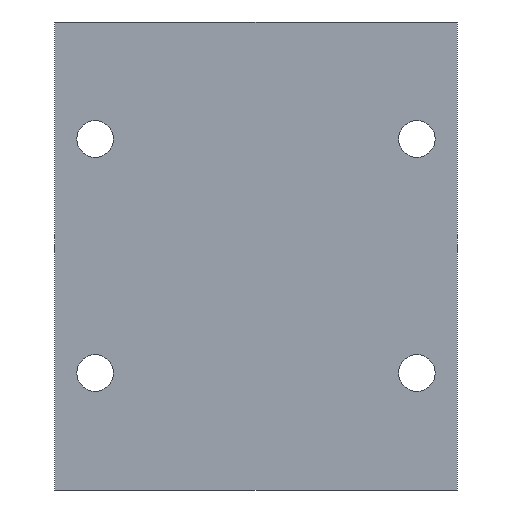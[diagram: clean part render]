
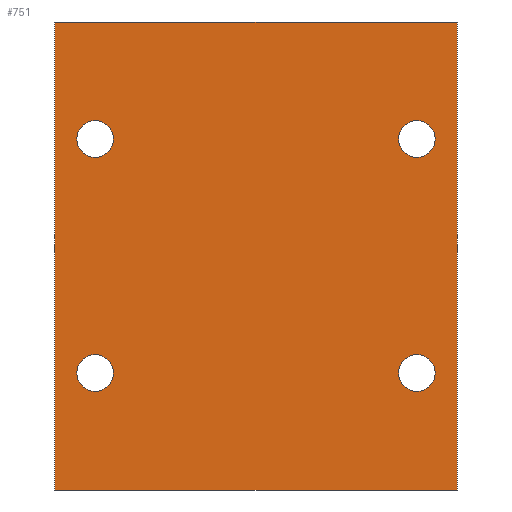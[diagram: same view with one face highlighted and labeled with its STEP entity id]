
A CAD part, left-side view. The second image highlights one B-rep face of the part: STEP entity #751.
In plain terms, the highlighted planar face has unit normal (-1, 0, 0).
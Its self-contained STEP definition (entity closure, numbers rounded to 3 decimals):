
#7 = ORIENTED_EDGE ( 'NONE', *, *, #178, .T. ) ;
#21 = CARTESIAN_POINT ( 'NONE',  ( 0., 5.5, 45.5 ) ) ;
#29 = LINE ( 'NONE', #2273, #1985 ) ;
#63 = EDGE_CURVE ( 'NONE', #290, #513, #1407, .T. ) ;
#78 = VERTEX_POINT ( 'NONE', #1261 ) ;
#126 = DIRECTION ( 'NONE',  ( 0., -1., 0. ) ) ;
#163 = CIRCLE ( 'NONE', #1084, 2.5 ) ;
#178 = EDGE_CURVE ( 'NONE', #1125, #1614, #2141, .T. ) ;
#226 = VERTEX_POINT ( 'NONE', #713 ) ;
#229 = EDGE_CURVE ( 'NONE', #78, #226, #476, .T. ) ;
#230 = CARTESIAN_POINT ( 'NONE',  ( 0., 5.5, 48. ) ) ;
#268 = CARTESIAN_POINT ( 'NONE',  ( 0., 49.5, 16. ) ) ;
#271 = DIRECTION ( 'NONE',  ( 1., 0., 0. ) ) ;
#272 = CARTESIAN_POINT ( 'NONE',  ( 0., 5.5, 48. ) ) ;
#274 = AXIS2_PLACEMENT_3D ( 'NONE', #1410, #271, #1604 ) ;
#281 = EDGE_LOOP ( 'NONE', ( #2283, #2324, #650, #782 ) ) ;
#290 = VERTEX_POINT ( 'NONE', #1500 ) ;
#291 = DIRECTION ( 'NONE',  ( 0., 0., -1. ) ) ;
#305 = DIRECTION ( 'NONE',  ( 1., 0., 0. ) ) ;
#322 = CIRCLE ( 'NONE', #1916, 2.5 ) ;
#340 = CARTESIAN_POINT ( 'NONE',  ( 0., 5.5, 18.5 ) ) ;
#377 = DIRECTION ( 'NONE',  ( 0., 0., -1. ) ) ;
#381 = CARTESIAN_POINT ( 'NONE',  ( 0., 49.5, 45.5 ) ) ;
#476 = LINE ( 'NONE', #1483, #1432 ) ;
#483 = DIRECTION ( 'NONE',  ( 1., 0., 0. ) ) ;
#486 = FACE_BOUND ( 'NONE', #1707, .T. ) ;
#494 = ORIENTED_EDGE ( 'NONE', *, *, #824, .T. ) ;
#513 = VERTEX_POINT ( 'NONE', #1748 ) ;
#516 = EDGE_CURVE ( 'NONE', #865, #656, #322, .T. ) ;
#527 = CARTESIAN_POINT ( 'NONE',  ( 0., 49.5, 48. ) ) ;
#529 = AXIS2_PLACEMENT_3D ( 'NONE', #272, #578, #2308 ) ;
#538 = ORIENTED_EDGE ( 'NONE', *, *, #1850, .T. ) ;
#578 = DIRECTION ( 'NONE',  ( 1., 0., 0. ) ) ;
#614 = CARTESIAN_POINT ( 'NONE',  ( 0., 5.5, 50.5 ) ) ;
#650 = ORIENTED_EDGE ( 'NONE', *, *, #63, .F. ) ;
#653 = DIRECTION ( 'NONE',  ( 1., 0., 0. ) ) ;
#656 = VERTEX_POINT ( 'NONE', #1072 ) ;
#663 = EDGE_CURVE ( 'NONE', #656, #865, #163, .T. ) ;
#677 = CARTESIAN_POINT ( 'NONE',  ( 0., 0., 64. ) ) ;
#713 = CARTESIAN_POINT ( 'NONE',  ( 0., 0., 0. ) ) ;
#719 = DIRECTION ( 'NONE',  ( 0., 0., -1. ) ) ;
#742 = ORIENTED_EDGE ( 'NONE', *, *, #2243, .T. ) ;
#751 = ADVANCED_FACE ( 'NONE', ( #997, #1051, #1504, #486, #2468 ), #866, .F. ) ;
#778 = DIRECTION ( 'NONE',  ( 1., 0., 0. ) ) ;
#782 = ORIENTED_EDGE ( 'NONE', *, *, #1194, .T. ) ;
#792 = CARTESIAN_POINT ( 'NONE',  ( 0., 49.5, 13.5 ) ) ;
#796 = CIRCLE ( 'NONE', #1687, 2.5 ) ;
#820 = CIRCLE ( 'NONE', #529, 2.5 ) ;
#824 = EDGE_CURVE ( 'NONE', #1197, #2169, #820, .T. ) ;
#838 = ORIENTED_EDGE ( 'NONE', *, *, #663, .T. ) ;
#865 = VERTEX_POINT ( 'NONE', #792 ) ;
#866 = PLANE ( 'NONE',  #1742 ) ;
#867 = VECTOR ( 'NONE', #2097, 1000. ) ;
#926 = LINE ( 'NONE', #1709, #867 ) ;
#927 = AXIS2_PLACEMENT_3D ( 'NONE', #527, #1866, #719 ) ;
#970 = CIRCLE ( 'NONE', #274, 2.5 ) ;
#989 = ORIENTED_EDGE ( 'NONE', *, *, #1772, .T. ) ;
#997 = FACE_BOUND ( 'NONE', #2319, .T. ) ;
#1021 = ORIENTED_EDGE ( 'NONE', *, *, #516, .T. ) ;
#1025 = DIRECTION ( 'NONE',  ( 0., 0., -1. ) ) ;
#1045 = DIRECTION ( 'NONE',  ( 0., -1., 0. ) ) ;
#1051 = FACE_BOUND ( 'NONE', #2156, .T. ) ;
#1072 = CARTESIAN_POINT ( 'NONE',  ( 0., 49.5, 18.5 ) ) ;
#1084 = AXIS2_PLACEMENT_3D ( 'NONE', #1346, #778, #2090 ) ;
#1125 = VERTEX_POINT ( 'NONE', #1375 ) ;
#1127 = VERTEX_POINT ( 'NONE', #2262 ) ;
#1177 = VERTEX_POINT ( 'NONE', #340 ) ;
#1194 = EDGE_CURVE ( 'NONE', #290, #78, #926, .T. ) ;
#1197 = VERTEX_POINT ( 'NONE', #21 ) ;
#1261 = CARTESIAN_POINT ( 'NONE',  ( 0., 55., 0. ) ) ;
#1346 = CARTESIAN_POINT ( 'NONE',  ( 0., 49.5, 16. ) ) ;
#1373 = EDGE_CURVE ( 'NONE', #513, #226, #29, .T. ) ;
#1375 = CARTESIAN_POINT ( 'NONE',  ( 0., 49.5, 50.5 ) ) ;
#1407 = LINE ( 'NONE', #677, #1795 ) ;
#1410 = CARTESIAN_POINT ( 'NONE',  ( 0., 49.5, 48. ) ) ;
#1432 = VECTOR ( 'NONE', #1045, 1000. ) ;
#1483 = CARTESIAN_POINT ( 'NONE',  ( 0., 0., 0. ) ) ;
#1496 = DIRECTION ( 'NONE',  ( 0., 0., -1. ) ) ;
#1500 = CARTESIAN_POINT ( 'NONE',  ( 0., 55., 64. ) ) ;
#1504 = FACE_BOUND ( 'NONE', #2140, .T. ) ;
#1560 = DIRECTION ( 'NONE',  ( 1., 0., 0. ) ) ;
#1604 = DIRECTION ( 'NONE',  ( 0., 0., -1. ) ) ;
#1607 = ORIENTED_EDGE ( 'NONE', *, *, #1800, .T. ) ;
#1614 = VERTEX_POINT ( 'NONE', #381 ) ;
#1668 = CARTESIAN_POINT ( 'NONE',  ( 0., 0., 64. ) ) ;
#1687 = AXIS2_PLACEMENT_3D ( 'NONE', #2390, #305, #291 ) ;
#1707 = EDGE_LOOP ( 'NONE', ( #1607, #538 ) ) ;
#1709 = CARTESIAN_POINT ( 'NONE',  ( 0., 55., 64. ) ) ;
#1742 = AXIS2_PLACEMENT_3D ( 'NONE', #1668, #2158, #377 ) ;
#1748 = CARTESIAN_POINT ( 'NONE',  ( 0., 0., 64. ) ) ;
#1772 = EDGE_CURVE ( 'NONE', #2169, #1197, #1867, .T. ) ;
#1795 = VECTOR ( 'NONE', #126, 1000. ) ;
#1800 = EDGE_CURVE ( 'NONE', #1127, #1177, #796, .T. ) ;
#1810 = CARTESIAN_POINT ( 'NONE',  ( 0., 5.5, 16. ) ) ;
#1850 = EDGE_CURVE ( 'NONE', #1177, #1127, #2438, .T. ) ;
#1866 = DIRECTION ( 'NONE',  ( 1., 0., 0. ) ) ;
#1867 = CIRCLE ( 'NONE', #2217, 2.5 ) ;
#1916 = AXIS2_PLACEMENT_3D ( 'NONE', #268, #653, #1025 ) ;
#1941 = DIRECTION ( 'NONE',  ( 0., 0., -1. ) ) ;
#1985 = VECTOR ( 'NONE', #1496, 1000. ) ;
#2020 = DIRECTION ( 'NONE',  ( 0., 0., -1. ) ) ;
#2090 = DIRECTION ( 'NONE',  ( 0., 0., -1. ) ) ;
#2097 = DIRECTION ( 'NONE',  ( 0., 0., -1. ) ) ;
#2140 = EDGE_LOOP ( 'NONE', ( #1021, #838 ) ) ;
#2141 = CIRCLE ( 'NONE', #927, 2.5 ) ;
#2156 = EDGE_LOOP ( 'NONE', ( #742, #7 ) ) ;
#2158 = DIRECTION ( 'NONE',  ( 1., 0., 0. ) ) ;
#2169 = VERTEX_POINT ( 'NONE', #614 ) ;
#2217 = AXIS2_PLACEMENT_3D ( 'NONE', #230, #1560, #1941 ) ;
#2243 = EDGE_CURVE ( 'NONE', #1614, #1125, #970, .T. ) ;
#2262 = CARTESIAN_POINT ( 'NONE',  ( 0., 5.5, 13.5 ) ) ;
#2273 = CARTESIAN_POINT ( 'NONE',  ( 0., 0., 64. ) ) ;
#2283 = ORIENTED_EDGE ( 'NONE', *, *, #229, .T. ) ;
#2308 = DIRECTION ( 'NONE',  ( 0., 0., -1. ) ) ;
#2319 = EDGE_LOOP ( 'NONE', ( #494, #989 ) ) ;
#2324 = ORIENTED_EDGE ( 'NONE', *, *, #1373, .F. ) ;
#2390 = CARTESIAN_POINT ( 'NONE',  ( 0., 5.5, 16. ) ) ;
#2438 = CIRCLE ( 'NONE', #2463, 2.5 ) ;
#2463 = AXIS2_PLACEMENT_3D ( 'NONE', #1810, #483, #2020 ) ;
#2468 = FACE_OUTER_BOUND ( 'NONE', #281, .T. ) ;
